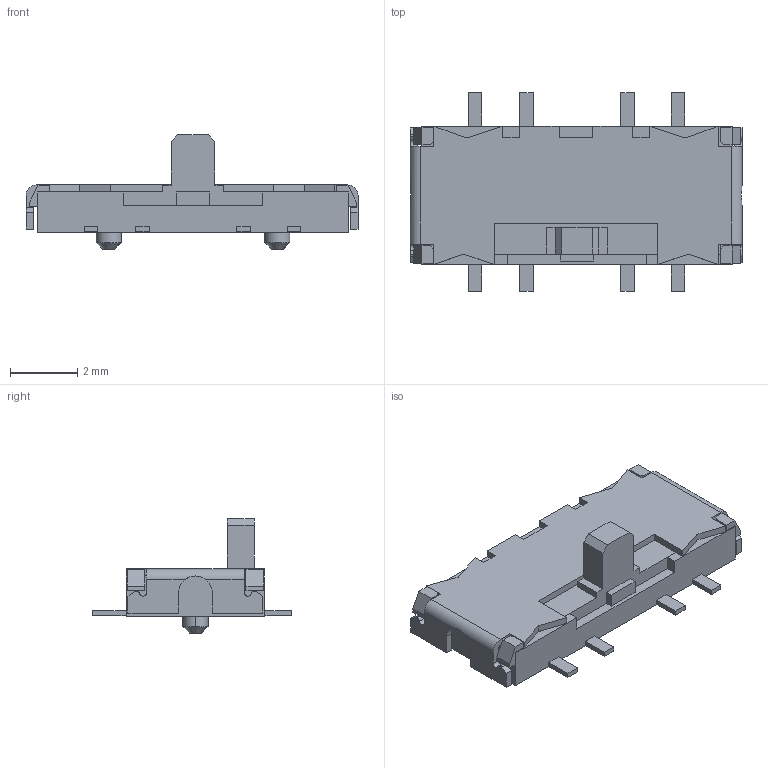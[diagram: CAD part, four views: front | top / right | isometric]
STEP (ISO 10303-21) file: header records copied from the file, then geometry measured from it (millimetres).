
FILE_DESCRIPTION (( 'STEP AP214' ), '1' );
FILE_NAME ('SSSS820301.STEP', '2025-10-15T02:46:14', ( '' ), ( '' ), 'SwSTEP 2.0', 'SolidWorks 2023', '' );
FILE_SCHEMA (( 'AUTOMOTIVE_DESIGN' ));
Length unit declared in the file: millimetre
Products named in the file (1): SSSS820301
Bounding box: 9.85 x 5.9 x 3.4 mm (x, y, z)
Volume: 43.4 mm3; surface area: 344 mm2
Topology: 14 solids, 14 shells, 569 faces, 1609 edges, 1067 vertices
Faces by surface type: plane 483, cylinder 82, cone 4
Entity records: 24842 total; most frequent: CARTESIAN_POINT 3518, ORIENTED_EDGE 3218, DIRECTION 2873, EDGE_CURVE 1609, VECTOR 1437, LINE 1437, VERTEX_POINT 1067, AXIS2_PLACEMENT_3D 718
